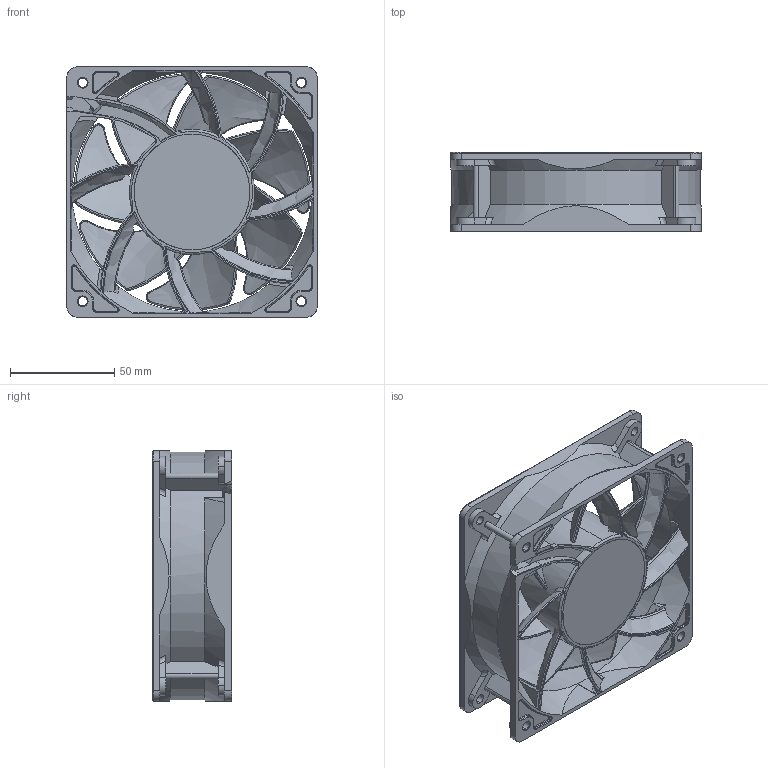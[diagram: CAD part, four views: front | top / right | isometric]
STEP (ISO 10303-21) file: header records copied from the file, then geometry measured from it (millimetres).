
FILE_DESCRIPTION (( 'STEP AP214' ), '1' );
FILE_NAME ('120x38WV_Ribless.STEP', '2017-03-31T07:02:25', ( '' ), ( '' ), 'SwSTEP 2.0', 'SolidWorks 2017', '' );
FILE_SCHEMA (( 'AUTOMOTIVE_DESIGN' ));
Length unit declared in the file: millimetre
Products named in the file (1): 120x38WV_Ribless
Bounding box: 120 x 38 x 120 mm (x, y, z)
Volume: 168809.4 mm3; surface area: 78059.3 mm2
Topology: 1 solids, 1 shells, 956 faces, 2510 edges, 1577 vertices
Faces by surface type: bspline 349, cylinder 305, plane 226, cone 65, torus 11
Entity records: 47804 total; most frequent: CARTESIAN_POINT 27742, ORIENTED_EDGE 5020, DIRECTION 3046, EDGE_CURVE 2510, VERTEX_POINT 1577, AXIS2_PLACEMENT_3D 1174, B_SPLINE_CURVE_WITH_KNOTS 1119, EDGE_LOOP 1009
